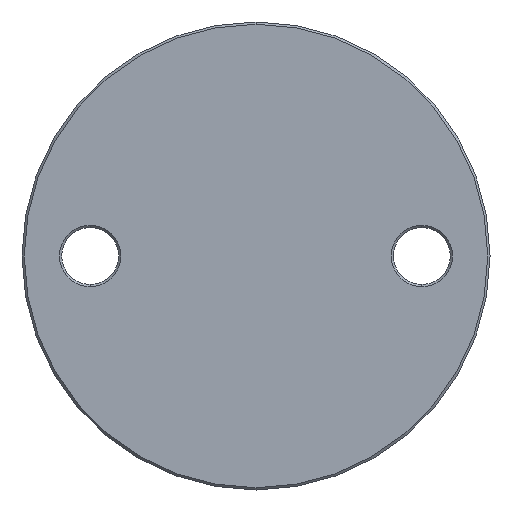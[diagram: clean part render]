
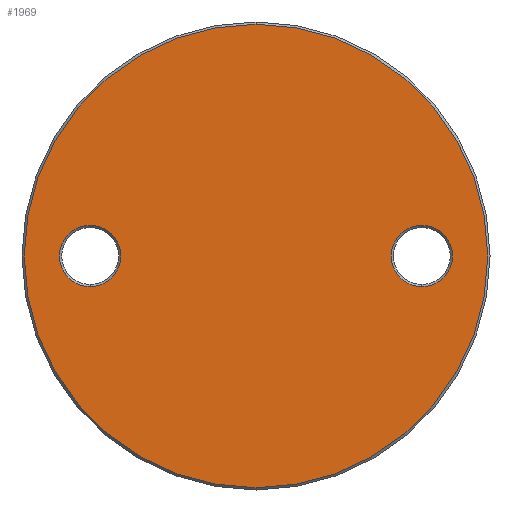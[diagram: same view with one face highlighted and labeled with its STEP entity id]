
A CAD part, front view. The second image highlights one B-rep face of the part: STEP entity #1969.
In plain terms, the highlighted planar face has unit normal (0, -1, 0).
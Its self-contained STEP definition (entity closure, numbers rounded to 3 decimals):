
#214 = CIRCLE ( 'NONE', #2964, 51. ) ;
#215 = DIRECTION ( 'NONE',  ( 0., -1., 0. ) ) ;
#253 = DIRECTION ( 'NONE',  ( 0., 1., 0. ) ) ;
#257 = CARTESIAN_POINT ( 'NONE',  ( 36.5, -3., 6.75 ) ) ;
#318 = DIRECTION ( 'NONE',  ( 0., 0., -1. ) ) ;
#385 = AXIS2_PLACEMENT_3D ( 'NONE', #3863, #6321, #318 ) ;
#503 = CIRCLE ( 'NONE', #7334, 51. ) ;
#606 = ORIENTED_EDGE ( 'NONE', *, *, #4211, .T. ) ;
#832 = VERTEX_POINT ( 'NONE', #2136 ) ;
#1049 = EDGE_CURVE ( 'NONE', #7015, #5371, #1510, .T. ) ;
#1117 = CARTESIAN_POINT ( 'NONE',  ( 36.5, -3., 0. ) ) ;
#1118 = FACE_BOUND ( 'NONE', #3325, .T. ) ;
#1470 = DIRECTION ( 'NONE',  ( 0., 0., -1. ) ) ;
#1510 = CIRCLE ( 'NONE', #1938, 6.75 ) ;
#1618 = CARTESIAN_POINT ( 'NONE',  ( 36.5, -3., -6.75 ) ) ;
#1655 = ORIENTED_EDGE ( 'NONE', *, *, #7683, .T. ) ;
#1739 = DIRECTION ( 'NONE',  ( 0., -1., 0. ) ) ;
#1777 = FACE_BOUND ( 'NONE', #2682, .T. ) ;
#1938 = AXIS2_PLACEMENT_3D ( 'NONE', #3828, #253, #6360 ) ;
#1969 = ADVANCED_FACE ( 'NONE', ( #1118, #1777, #4199 ), #2662, .T. ) ;
#1998 = DIRECTION ( 'NONE',  ( 0., 0., -1. ) ) ;
#1999 = EDGE_LOOP ( 'NONE', ( #3175, #3702 ) ) ;
#2090 = ORIENTED_EDGE ( 'NONE', *, *, #2421, .T. ) ;
#2105 = CARTESIAN_POINT ( 'NONE',  ( 0., -3., 51. ) ) ;
#2136 = CARTESIAN_POINT ( 'NONE',  ( 0., -3., -51. ) ) ;
#2421 = EDGE_CURVE ( 'NONE', #6413, #3969, #3071, .T. ) ;
#2609 = CIRCLE ( 'NONE', #6974, 6.75 ) ;
#2662 = PLANE ( 'NONE',  #385 ) ;
#2682 = EDGE_LOOP ( 'NONE', ( #606, #7560 ) ) ;
#2960 = CARTESIAN_POINT ( 'NONE',  ( 0., -3., 0. ) ) ;
#2964 = AXIS2_PLACEMENT_3D ( 'NONE', #4350, #215, #1998 ) ;
#2967 = DIRECTION ( 'NONE',  ( 0., 1., 0. ) ) ;
#3071 = CIRCLE ( 'NONE', #6510, 6.75 ) ;
#3099 = DIRECTION ( 'NONE',  ( 0., 1., 0. ) ) ;
#3175 = ORIENTED_EDGE ( 'NONE', *, *, #7605, .T. ) ;
#3325 = EDGE_LOOP ( 'NONE', ( #2090, #1655 ) ) ;
#3702 = ORIENTED_EDGE ( 'NONE', *, *, #5133, .T. ) ;
#3828 = CARTESIAN_POINT ( 'NONE',  ( -36.5, -3., 0. ) ) ;
#3863 = CARTESIAN_POINT ( 'NONE',  ( 0., -3., 51.5 ) ) ;
#3969 = VERTEX_POINT ( 'NONE', #257 ) ;
#4117 = DIRECTION ( 'NONE',  ( 0., 0., -1. ) ) ;
#4199 = FACE_OUTER_BOUND ( 'NONE', #1999, .T. ) ;
#4207 = CARTESIAN_POINT ( 'NONE',  ( -36.5, -3., 6.75 ) ) ;
#4211 = EDGE_CURVE ( 'NONE', #5371, #7015, #2609, .T. ) ;
#4350 = CARTESIAN_POINT ( 'NONE',  ( 0., -3., 0. ) ) ;
#5042 = CARTESIAN_POINT ( 'NONE',  ( 36.5, -3., 0. ) ) ;
#5133 = EDGE_CURVE ( 'NONE', #832, #7257, #503, .T. ) ;
#5371 = VERTEX_POINT ( 'NONE', #6623 ) ;
#5690 = AXIS2_PLACEMENT_3D ( 'NONE', #1117, #2967, #4117 ) ;
#6321 = DIRECTION ( 'NONE',  ( 0., -1., 0. ) ) ;
#6360 = DIRECTION ( 'NONE',  ( 0., 0., -1. ) ) ;
#6413 = VERTEX_POINT ( 'NONE', #1618 ) ;
#6510 = AXIS2_PLACEMENT_3D ( 'NONE', #5042, #7399, #1470 ) ;
#6623 = CARTESIAN_POINT ( 'NONE',  ( -36.5, -3., -6.75 ) ) ;
#6702 = CARTESIAN_POINT ( 'NONE',  ( -36.5, -3., 0. ) ) ;
#6732 = DIRECTION ( 'NONE',  ( 0., 0., -1. ) ) ;
#6974 = AXIS2_PLACEMENT_3D ( 'NONE', #6702, #3099, #6732 ) ;
#7015 = VERTEX_POINT ( 'NONE', #4207 ) ;
#7162 = DIRECTION ( 'NONE',  ( 0., 0., -1. ) ) ;
#7257 = VERTEX_POINT ( 'NONE', #2105 ) ;
#7334 = AXIS2_PLACEMENT_3D ( 'NONE', #2960, #1739, #7162 ) ;
#7399 = DIRECTION ( 'NONE',  ( 0., 1., 0. ) ) ;
#7560 = ORIENTED_EDGE ( 'NONE', *, *, #1049, .T. ) ;
#7605 = EDGE_CURVE ( 'NONE', #7257, #832, #214, .T. ) ;
#7609 = CIRCLE ( 'NONE', #5690, 6.75 ) ;
#7683 = EDGE_CURVE ( 'NONE', #3969, #6413, #7609, .T. ) ;
